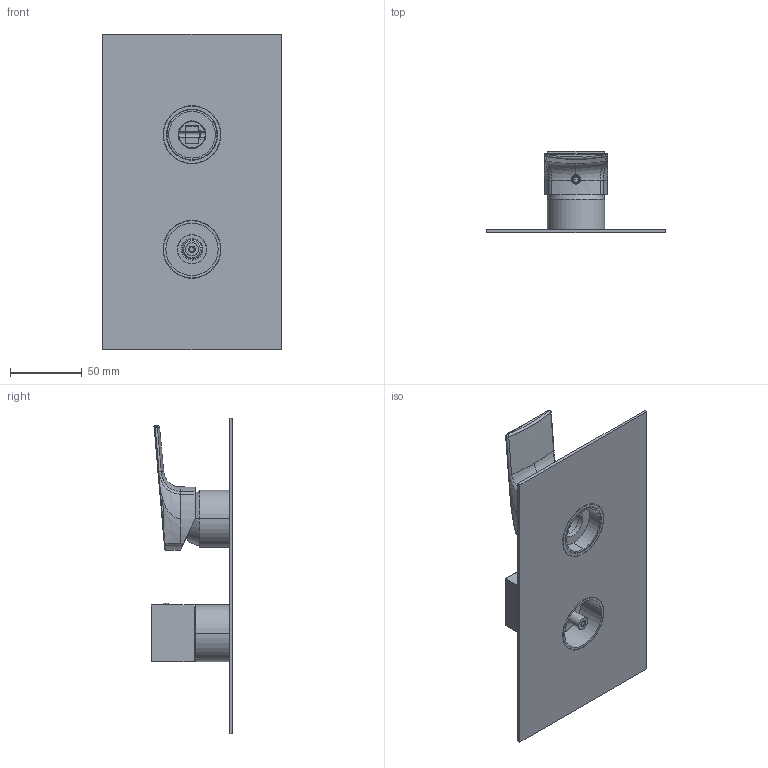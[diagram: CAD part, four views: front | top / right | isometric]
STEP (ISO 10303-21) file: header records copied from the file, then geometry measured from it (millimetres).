
FILE_DESCRIPTION((''),'2;1');
FILE_NAME('75523V2_SW0001','2026-10-08T10:40:13',('carloff'),(''),'CREO PARAMETRIC BY PTC INC, 2025443','CREO PARAMETRIC BY PTC INC, 2025443','');
FILE_SCHEMA(('CONFIG_CONTROL_DESIGN'));
Products named in the file (1): 75523V2_SW0001
Bounding box: 125 x 57 x 220 mm (x, y, z)
Volume: 125660.2 mm3; surface area: 111235 mm2
Topology: 5 solids, 5 shells, 877 faces, 2381 edges, 1518 vertices
Faces by surface type: cylinder 390, plane 218, bspline 125, cone 64, torus 64, sphere 16
Entity records: 79119 total; most frequent: CARTESIAN_POINT 58301, ORIENTED_EDGE 4750, DIRECTION 3795, EDGE_CURVE 2375, VERTEX_POINT 1518, AXIS2_PLACEMENT_3D 1408, VECTOR 979, LINE 979
